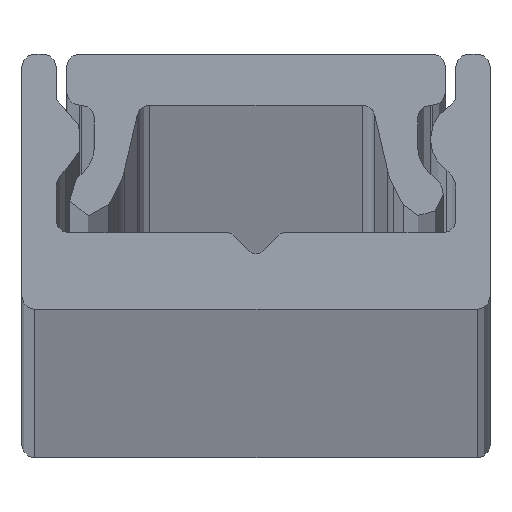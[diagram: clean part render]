
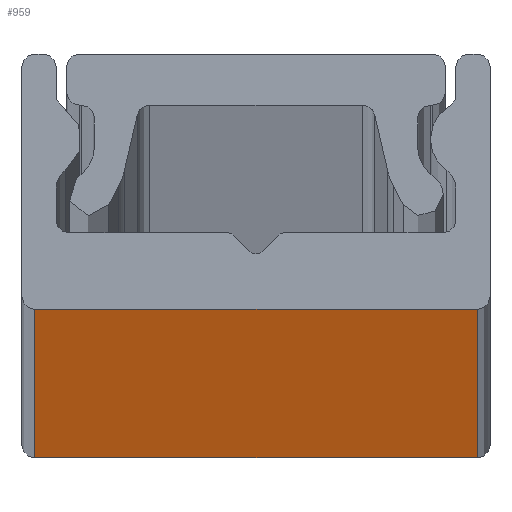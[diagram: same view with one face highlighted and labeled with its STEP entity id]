
A CAD part, top view. The second image highlights one B-rep face of the part: STEP entity #959.
In plain terms, the highlighted planar face has unit normal (0, -1, 0).
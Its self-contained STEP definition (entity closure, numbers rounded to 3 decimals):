
#88 = EDGE_CURVE ( 'NONE', #2301, #1679, #687, .T. ) ;
#253 = VECTOR ( 'NONE', #807, 1000. ) ;
#278 = CARTESIAN_POINT ( 'NONE',  ( -5.2, 0., 2000. ) ) ;
#286 = VERTEX_POINT ( 'NONE', #2106 ) ;
#306 = LINE ( 'NONE', #2266, #2208 ) ;
#529 = LINE ( 'NONE', #1862, #2021 ) ;
#591 = FACE_OUTER_BOUND ( 'NONE', #806, .T. ) ;
#687 = LINE ( 'NONE', #1426, #773 ) ;
#773 = VECTOR ( 'NONE', #1646, 1000. ) ;
#781 = ORIENTED_EDGE ( 'NONE', *, *, #1648, .T. ) ;
#794 = LINE ( 'NONE', #1737, #253 ) ;
#806 = EDGE_LOOP ( 'NONE', ( #781, #1857, #1917, #1934 ) ) ;
#807 = DIRECTION ( 'NONE',  ( 1., 0., 0. ) ) ;
#808 = EDGE_CURVE ( 'NONE', #2301, #1505, #794, .T. ) ;
#912 = AXIS2_PLACEMENT_3D ( 'NONE', #2081, #1749, #1711 ) ;
#959 = ADVANCED_FACE ( 'NONE', ( #591 ), #1337, .F. ) ;
#1081 = DIRECTION ( 'NONE',  ( 1., 0., 0. ) ) ;
#1157 = DIRECTION ( 'NONE',  ( 0., 0., -1. ) ) ;
#1337 = PLANE ( 'NONE',  #912 ) ;
#1426 = CARTESIAN_POINT ( 'NONE',  ( -5.2, 0., 2000. ) ) ;
#1505 = VERTEX_POINT ( 'NONE', #1601 ) ;
#1558 = EDGE_CURVE ( 'NONE', #1505, #286, #306, .T. ) ;
#1601 = CARTESIAN_POINT ( 'NONE',  ( 5.2, 0., 2000. ) ) ;
#1646 = DIRECTION ( 'NONE',  ( 0., 0., -1. ) ) ;
#1648 = EDGE_CURVE ( 'NONE', #1679, #286, #529, .T. ) ;
#1679 = VERTEX_POINT ( 'NONE', #1905 ) ;
#1711 = DIRECTION ( 'NONE',  ( 0., 0., 1. ) ) ;
#1737 = CARTESIAN_POINT ( 'NONE',  ( -5.2, 0., 2000. ) ) ;
#1749 = DIRECTION ( 'NONE',  ( 0., 1., 0. ) ) ;
#1857 = ORIENTED_EDGE ( 'NONE', *, *, #1558, .F. ) ;
#1862 = CARTESIAN_POINT ( 'NONE',  ( -5.2, 0., 0. ) ) ;
#1905 = CARTESIAN_POINT ( 'NONE',  ( -5.2, 0., 0. ) ) ;
#1917 = ORIENTED_EDGE ( 'NONE', *, *, #808, .F. ) ;
#1934 = ORIENTED_EDGE ( 'NONE', *, *, #88, .T. ) ;
#2021 = VECTOR ( 'NONE', #1081, 1000. ) ;
#2081 = CARTESIAN_POINT ( 'NONE',  ( -5.2, 0., 2000. ) ) ;
#2106 = CARTESIAN_POINT ( 'NONE',  ( 5.2, 0., 0. ) ) ;
#2208 = VECTOR ( 'NONE', #1157, 1000. ) ;
#2266 = CARTESIAN_POINT ( 'NONE',  ( 5.2, 0., 2000. ) ) ;
#2301 = VERTEX_POINT ( 'NONE', #278 ) ;
